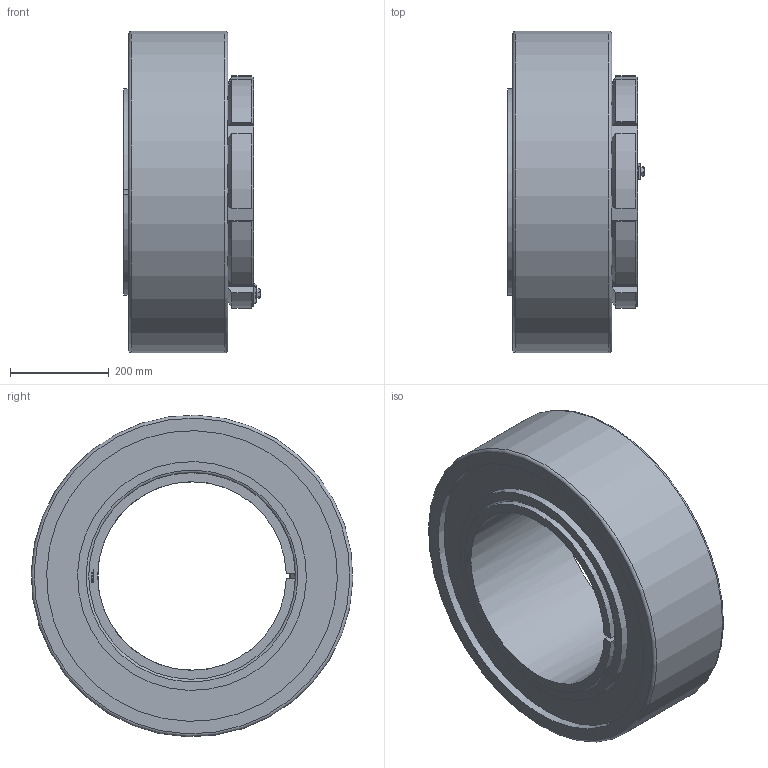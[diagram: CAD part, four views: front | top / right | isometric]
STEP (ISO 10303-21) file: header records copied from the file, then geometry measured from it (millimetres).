
FILE_DESCRIPTION( ( 'STEP AP203' ), ' ' );
FILE_NAME( 'p:/temp/worker_354/4592_3988/app_90_02016102823101534313888192d056f_000000_00_00_000000/format_0/BGL HE 3180 TL+23180K.stp', '2016-10-28T21:10:17', ( '' ), ( '' ), ' ', 'PARTsolutions', ' ' );
FILE_SCHEMA( ( 'CONFIG_CONTROL_DESIGN' ) );
Length unit declared in the file: millimetre
Products named in the file (6): BGL HE 3180 TL+23180K; _BGLHE3180TLB; _BGL HM 3080; _BGLHE3180TL+HE-23180K; _BGL MS 3076-BGL MS 3080part; _BGL MS 3076-BGL MS 3080HHS
Assembly tree (5 placements, depth 2):
  BGL HE 3180 TL+23180K
    _BGLHE3180TLB
    _BGL HM 3080
    _BGLHE3180TL+HE-23180K
    _BGL MS 3076-BGL MS 3080part
    _BGL MS 3076-BGL MS 3080HHS
Bounding box: 275.36 x 649.78 x 649.78 mm (x, y, z)
Volume: 43146839.7 mm3; surface area: 2084488.5 mm2
Topology: 5 solids, 5 shells, 351 faces, 899 edges, 589 vertices
Faces by surface type: plane 230, cylinder 79, cone 38, torus 4
Full cylindrical faces by diameter (mm): 10 x9, 12 x1, 18.1 x1, 395 x1, 462.5 x2, 587.5 x2, 650 x1
Entity records: 10770 total; most frequent: CARTESIAN_POINT 2112, DIRECTION 1729, ORIENTED_EDGE 1726, EDGE_CURVE 863, VERTEX_POINT 586, AXIS2_PLACEMENT_3D 577, LINE 575, VECTOR 575
